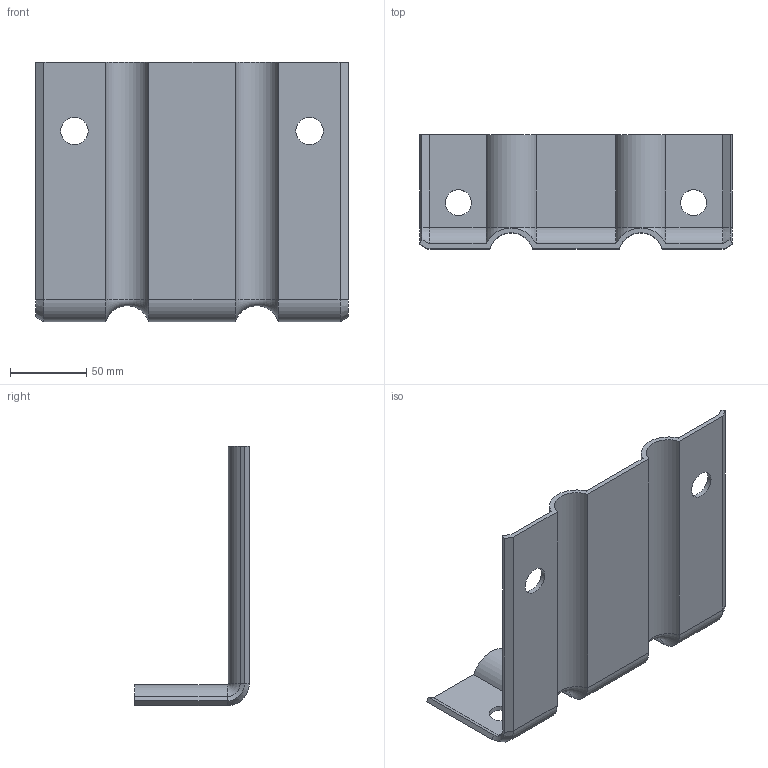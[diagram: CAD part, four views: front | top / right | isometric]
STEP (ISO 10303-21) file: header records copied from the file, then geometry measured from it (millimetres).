
FILE_DESCRIPTION(/* description */ (''),/* implementation_level */ '2;1');
FILE_NAME(/* name */ 'SC250.stp',/* time_stamp */ '2024-11-04T10:13:49+01:00',/* author */ ('woriedl'),/* organization */ (''),/* preprocessor_version */ 'ST-DEVELOPER v20',/* originating_system */ 'AutoCAD Mechanical',/* authorisation */ '');
FILE_SCHEMA (('AUTOMOTIVE_DESIGN { 1 0 10303 214 3 1 1 }'));
Length unit declared in the file: millimetre
Products named in the file (1): Product
Bounding box: 205 x 75 x 170 mm (x, y, z)
Volume: 162584 mm3; surface area: 105269.9 mm2
Topology: 1 solids, 1 shells, 54 faces, 124 edges, 72 vertices
Faces by surface type: plane 26, cylinder 18, cone 6, torus 4
Full cylindrical faces by diameter (mm): 17 x2, 18 x2
Entity records: 1531 total; most frequent: DIRECTION 274, CARTESIAN_POINT 251, ORIENTED_EDGE 248, EDGE_CURVE 124, AXIS2_PLACEMENT_3D 95, LINE 84, VECTOR 84, VERTEX_POINT 72
